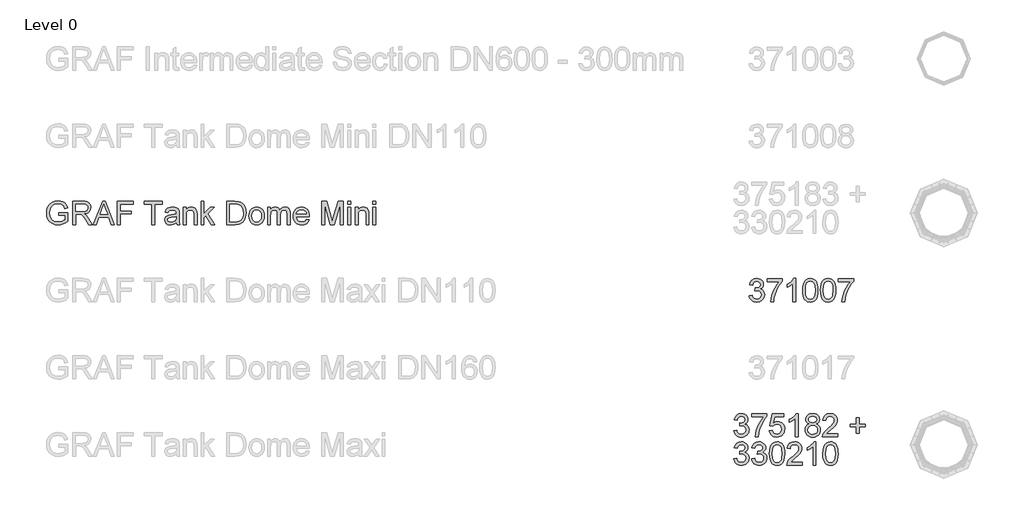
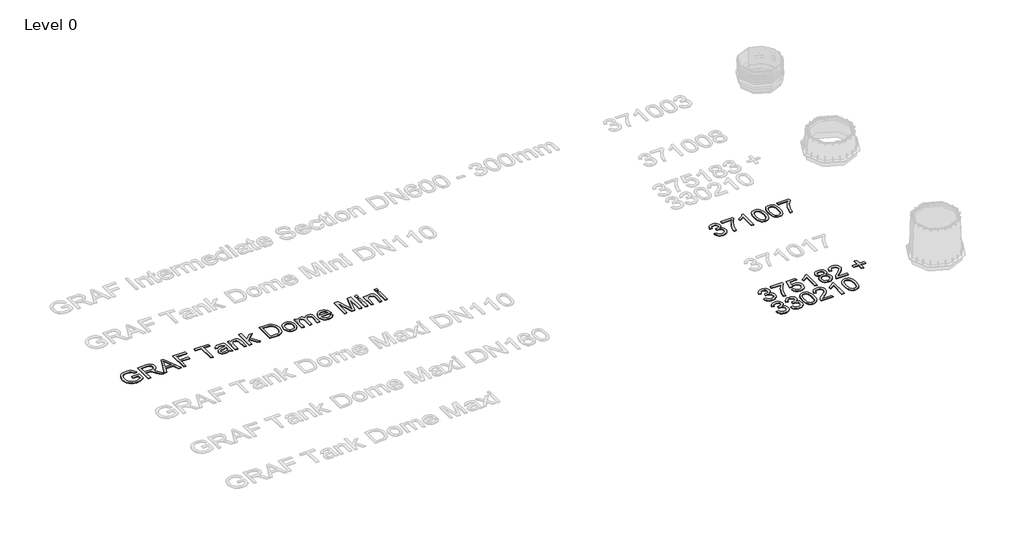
# One storey, part 4 of 20: 3 proxies.
"""IFC4 building model written with IfcOpenShell, lengths in millimetres."""

from ifc_helpers import new_model, si_unit, origin, origin_with_axes, place, context, project, spatial, polyline, outline, extrude, element, save

model = new_model("IFC4")

# Units and contexts
model_context = context("Model", 3, world=origin())
ifc_project = project(units=[si_unit("LENGTHUNIT", "METRE", prefix="MILLI")], contexts=[model_context])

# Site, building, storey
site = spatial("IfcSite", under=ifc_project)
building = spatial("IfcBuilding", under=site)
storey = spatial("IfcBuildingStorey", under=building, Name="Level 0", Elevation=0.0)

# Proxies
placement = place(None, origin())
element("IfcBuildingElementProxy", 1, Name="300mm Arial", ObjectType="300mm Arial", at=placement, inside=storey, context=model_context, shape_type="SweptSolid", body=[
    extrude(outline(polyline([(-15240.9940387, -15082.9794047), (-15240.9940387, -15045.3082884), (-15118.5629107, -15045.3082884), (-15118.5629107, -15157.9537553), (-15148.3153671, -15178.6471176), (-15179.0059225, -15193.4911561), (-15210.5610007, -15202.4306885), (-15242.9070251, -15205.4105327), (-15285.1674693, -15200.674052), (-15323.3628175, -15186.46461), (-15355.0926395, -15163.2788472), (-15377.9565055, -15131.6134045), (-15391.7796715, -15093.6295885), (-15396.3873935, -15051.4887059), (-15391.7980656, -15009.0443207), (-15378.0300819, -14969.5613856), (-15355.6536596, -14936.442809), (-15325.2390156, -14913.0914993), (-15288.1932987, -14899.2407422), (-15245.9236575, -14894.6238232), (-15214.8928112, -14897.3001647), (-15186.9889618, -14905.3291892), (-15163.4904994, -14918.1314827), (-15145.6758138, -14935.1276309), (-15132.4964413, -14957.1361712), (-15122.9039183, -14984.9756412), (-15157.6319786, -14994.7613023), (-15165.3850917, -14974.9048716), (-15174.8120678, -14959.9228773), (-15187.2832674, -14948.6289001), (-15204.169051, -14939.8365204), (-15224.3013932, -14934.1803347), (-15246.5122687, -14932.2949395), (-15272.5123287, -14934.3274875), (-15294.7415982, -14940.4251316), (-15313.1173039, -14949.8245166), (-15327.5566722, -14961.7622873), (-15346.9440533, -14990.7881767), (-15355.7732212, -15019.225455), (-15358.7162772, -15049.9436015), (-15355.175413, -15085.9684459), (-15344.5528204, -15115.6105377), (-15327.1703961, -15138.6583447), (-15303.3500369, -15154.9003348), (-15275.4737787, -15164.529646), (-15245.9236575, -15167.7394164), (-15219.831627, -15165.3205923), (-15194.3833899, -15158.0641199), (-15172.2828791, -15148.0669267), (-15156.234027, -15137.42594), (-15156.234027, -15082.9794047), (-15240.9940387, -15082.9794047)])), origin_with_axes(), (0.0, 0.0, 1.0), 10.0),
    extrude(outline(polyline([(-15057.3473467, -15200.7016432), (-15057.3473467, -14899.3327127), (-14927.4850024, -14899.3327127), (-14892.5821982, -14901.3652607), (-14867.1891434, -14907.4629048), (-14848.6294968, -14918.7200939), (-14834.2269167, -14936.2312768), (-14824.9838815, -14957.9455116), (-14821.9028698, -14981.811856), (-14827.0072325, -15011.4999331), (-14842.3203206, -15036.1112385), (-14853.9200997, -15046.1406214), (-14868.3019865, -15054.1558504), (-14905.4120827, -15064.1438466), (-14884.0013506, -15080.257078), (-14853.467145, -15119.0318402), (-14803.2144645, -15200.7016432), (-14846.9924219, -15200.7016432), (-14886.2086426, -15138.2352804), (-14914.5355562, -15096.8853441), (-14934.4379722, -15077.3508102), (-14952.3538253, -15070.1771113), (-14974.2060158, -15068.8527361), (-15019.6762304, -15068.8527361), (-15019.6762304, -15200.7016432), (-15057.3473467, -15200.7016432)]), holes=[polyline([(-15019.6762304, -15031.1816198), (-14935.3576771, -15031.1816198), (-14911.1418448, -15029.8480476), (-14892.3522719, -15025.8473309), (-14878.2072092, -15018.9127553), (-14867.9249074, -15008.7776063), (-14861.6617165, -14996.5179388), (-14859.5739861, -14983.2098076), (-14863.5563087, -14964.834102), (-14875.5032765, -14950.0268517), (-14896.058683, -14940.2595847), (-14925.8663217, -14937.003829), (-15019.6762304, -14937.003829), (-15019.6762304, -15031.1816198)])]), origin_with_axes(), (0.0, 0.0, 1.0), 10.0),
    extrude(outline(polyline([(-14791.0743586, -15200.7016432), (-14670.7769462, -14899.3327127), (-14638.6976362, -14899.3327127), (-14518.4002238, -15200.7016432), (-14558.2050557, -15200.7016432), (-14592.7123868, -15106.5238524), (-14716.835772, -15106.5238524), (-14751.2695268, -15200.7016432), (-14791.0743586, -15200.7016432)]), holes=[polyline([(-14703.003409, -15068.8527361), (-14606.4711735, -15068.8527361), (-14633.6208647, -14994.7613023), (-14654.7372912, -14937.003829), (-14673.499273, -14988.2865792), (-14703.003409, -15068.8527361)])]), origin_with_axes(), (0.0, 0.0, 1.0), 10.0),
    extrude(outline(polyline([(-14478.1539335, -15200.7016432), (-14478.1539335, -14899.3327127), (-14275.6716834, -14899.3327127), (-14275.6716834, -14937.003829), (-14440.4828172, -14937.003829), (-14440.4828172, -15026.4727303), (-14299.2161311, -15026.4727303), (-14299.2161311, -15064.1438466), (-14440.4828172, -15064.1438466), (-14440.4828172, -15200.7016432), (-14478.1539335, -15200.7016432)])), origin_with_axes(), (0.0, 0.0, 1.0), 10.0),
    extrude(outline(polyline([(-14030.8094274, -15200.7016432), (-14030.8094274, -14937.003829), (-14129.6961077, -14937.003829), (-14129.6961077, -14899.3327127), (-13894.2516308, -14899.3327127), (-13894.2516308, -14937.003829), (-13993.1383111, -14937.003829), (-13993.1383111, -15200.7016432), (-14030.8094274, -15200.7016432)])), origin_with_axes(), (0.0, 0.0, 1.0), 10.0),
    extrude(outline(polyline([(-13715.3138283, -15172.4483059), (-13733.312455, -15187.8809556), (-13751.8445105, -15197.9793164), (-13771.3330592, -15203.5527286), (-13792.2011653, -15205.4105327), (-13823.6826671, -15200.9407665), (-13846.905218, -15187.5314677), (-13861.2250247, -15167.1691993), (-13865.9982936, -15141.8405239), (-13864.1956718, -15126.2239332), (-13858.7878065, -15112.0420823), (-13850.4460822, -15099.9019765), (-13839.8418837, -15090.410621), (-13813.4647447, -15078.049786), (-13780.8703999, -15072.3844033), (-13742.353155, -15066.4247149), (-13715.5345575, -15059.434957), (-13715.3138283, -15051.0472475), (-13717.9073964, -15034.2350404), (-13725.6881006, -15023.2353687), (-13743.088919, -15015.0683884), (-13767.3323425, -15012.3460616), (-13789.7731442, -15014.1578805), (-13805.4449172, -15019.5933369), (-13816.1318891, -15029.6457125), (-13823.6182877, -15045.3082884), (-13861.289404, -15040.5993989), (-13854.7503016, -15019.9980071), (-13844.9922316, -15003.8111994), (-13831.1046863, -14991.4319702), (-13812.1771577, -14982.2533144), (-13789.0281831, -14976.5695376), (-13762.4763001, -14974.6749453), (-13737.009669, -14976.3488084), (-13716.8221445, -14981.3703976), (-13701.601027, -14988.9211756), (-13691.0336167, -14998.1826048), (-13684.0254646, -15009.6329319), (-13679.482122, -15023.7504035), (-13677.642712, -15056.7126303), (-13677.642712, -15103.5807964), (-13675.7297257, -15169.0270034), (-13668.224933, -15200.7016432), (-13705.8960493, -15200.7016432), (-13715.3138283, -15172.4483059)]), holes=[polyline([(-13715.3138283, -15097.1060733), (-13776.0879339, -15108.657568), (-13808.4983377, -15114.7644091), (-13823.1768293, -15124.697223), (-13828.3271773, -15139.1917736), (-13825.522077, -15150.3937803), (-13817.1067764, -15159.5724361), (-13803.2652163, -15165.6976713), (-13784.1813378, -15167.7394164), (-13763.9478281, -15165.4861392), (-13746.0687631, -15158.7263075), (-13731.5742125, -15148.7659025), (-13721.4942459, -15136.9109052), (-13717.0244796, -15124.697223), (-13715.5345575, -15107.7746512), (-13715.3138283, -15097.1060733)])]), origin_with_axes(), (0.0, 0.0, 1.0), 10.0),
    extrude(outline(polyline([(-13625.8449271, -15200.7016432), (-13625.8449271, -14979.3838349), (-13588.1738108, -14979.3838349), (-13588.1738108, -15010.2859225), (-13575.0864088, -14994.70612), (-13559.3686506, -14983.5776896), (-13541.0205361, -14976.9006314), (-13520.0420653, -14974.6749453), (-13501.4732216, -14976.4683701), (-13484.4678764, -14981.8486442), (-13470.2860255, -14990.1443832), (-13460.1876647, -15000.6842024), (-13448.8936874, -15028.3857166), (-13446.9071247, -15064.8060342), (-13446.9071247, -15200.7016432), (-13484.578241, -15200.7016432), (-13484.578241, -15069.8828057), (-13488.9192485, -15036.5526969), (-13494.9249221, -15026.6290801), (-13504.2599277, -15018.9311494), (-13516.2252896, -15013.9923336), (-13530.122032, -15012.3460616), (-13552.1857546, -15016.0432757), (-13570.9937216, -15027.1349178), (-13578.5100106, -15036.1894135), (-13583.8787885, -15048.5640441), (-13588.1738108, -15083.2737103), (-13588.1738108, -15200.7016432), (-13625.8449271, -15200.7016432)])), origin_with_axes(), (0.0, 0.0, 1.0), 10.0),
    extrude(outline(polyline([(-13395.1093397, -15200.7016432), (-13395.1093397, -14899.3327127), (-13357.4382234, -14899.3327127), (-13357.4382234, -15061.274367), (-13272.9725173, -14979.3838349), (-13220.8804268, -14979.3838349), (-13306.3762025, -15062.3044366), (-13216.1715373, -15200.7016432), (-13260.1702239, -15200.7016432), (-13333.3787409, -15088.4976346), (-13357.4382234, -15111.8213531), (-13357.4382234, -15200.7016432), (-13395.1093397, -15200.7016432)])), origin_with_axes(), (0.0, 0.0, 1.0), 10.0),
    extrude(outline(polyline([(-13060.7781825, -15200.7016432), (-13060.7781825, -14899.3327127), (-12956.8147307, -14899.3327127), (-12903.030383, -14903.6737203), (-12879.0076887, -14912.0430357), (-12858.7373908, -14925.2316052), (-12837.8968757, -14948.1874417), (-12823.0528372, -14976.7350845), (-12814.1684871, -15010.3227107), (-12811.207037, -15048.3984972), (-12813.2119939, -15080.7445216), (-12819.2268645, -15109.209391), (-12828.3871262, -15133.4436174), (-12839.8282562, -15153.097713), (-12852.9984316, -15168.6131361), (-12867.3458295, -15180.4313452), (-12883.8177458, -15189.1961338), (-12903.3614768, -15195.5512952), (-12951.8115355, -15200.7016432), (-13060.7781825, -15200.7016432)]), holes=[polyline([(-13023.1070662, -15163.0305269), (-12956.4468487, -15163.0305269), (-12928.8740931, -15161.6693635), (-12907.9600017, -15157.5858733), (-12892.1778641, -15151.0191797), (-12880.0009701, -15142.2084059), (-12866.9135681, -15125.9020365), (-12857.0819218, -15104.794807), (-12850.9290954, -15078.794747), (-12848.8781533, -15047.809886), (-12852.8972641, -15006.7542553), (-12864.9545965, -14976.4407789), (-12882.7692821, -14955.618658), (-12904.0604526, -14943.0370938), (-12925.7287021, -14938.5121452), (-12957.4769183, -14937.003829), (-13023.1070662, -14937.003829), (-13023.1070662, -15163.0305269)])]), origin_with_axes(), (0.0, 0.0, 1.0), 10.0),
    extrude(outline(polyline([(-12773.5359207, -15090.042739), (-12771.4987741, -15061.3801331), (-12765.3873345, -15036.6814556), (-12755.2016018, -15015.9467067), (-12740.9415759, -14999.1758862), (-12726.5849811, -14988.4567246), (-12710.7384641, -14980.8001806), (-12693.4020251, -14976.2062541), (-12674.575664, -14974.6749453), (-12653.7926305, -14976.5396472), (-12635.0007584, -14982.1337528), (-12618.2000475, -14991.4572621), (-12603.3904979, -15004.5101751), (-12591.3032751, -15020.8510335), (-12582.6695445, -15040.0383788), (-12577.4893062, -15062.0722111), (-12575.7625601, -15086.9525303), (-12578.8159806, -15125.0099227), (-12587.9762423, -15153.9806298), (-12602.9766307, -15175.6764705), (-12623.5504313, -15191.9092635), (-12647.9869928, -15202.0352154), (-12674.575664, -15205.4105327), (-12695.6622001, -15203.5527286), (-12714.6288162, -15197.9793164), (-12731.4755123, -15188.690296), (-12746.2022884, -15175.6856675), (-12758.1607526, -15159.18616), (-12766.7025126, -15139.4125028), (-12771.8275687, -15116.3646958), (-12773.5359207, -15090.042739)]), holes=[polyline([(-12735.8648044, -15089.9691626), (-12731.5054027, -15124.0626265), (-12718.4271978, -15148.3520353), (-12698.7455111, -15162.8925711), (-12674.575664, -15167.7394164), (-12650.5161815, -15162.86498), (-12630.871283, -15148.2416707), (-12617.793078, -15123.6303652), (-12613.4336764, -15088.7919402), (-12617.8206692, -15055.6917577), (-12630.9816476, -15031.7334428), (-12650.6541372, -15017.1929069), (-12674.575664, -15012.3460616), (-12698.7455111, -15017.1745128), (-12718.4271978, -15031.6598664), (-12731.5054027, -15055.8940928), (-12735.8648044, -15089.9691626)])]), origin_with_axes(), (0.0, 0.0, 1.0), 10.0),
    extrude(outline(polyline([(-12533.3825542, -15200.7016432), (-12533.3825542, -14979.3838349), (-12495.7114379, -14979.3838349), (-12495.7114379, -15015.8041524), (-12484.3806725, -14999.0747187), (-12469.8125455, -14985.9689226), (-12452.5036976, -14977.4984396), (-12432.9507696, -14974.6749453), (-12411.9998899, -14977.5536219), (-12395.2060768, -14986.1896518), (-12382.6613008, -15000.0128178), (-12374.4575323, -15018.4529028), (-12360.7263368, -14999.3000464), (-12345.0637609, -14985.6194347), (-12327.4698045, -14977.4110677), (-12307.9444676, -14974.6749453), (-12279.626751, -14979.227485), (-12258.6850684, -14992.8851041), (-12245.7448193, -15016.0156845), (-12241.4314029, -15048.9871084), (-12241.4314029, -15200.7016432), (-12279.1025192, -15200.7016432), (-12279.1025192, -15065.1739161), (-12282.5973981, -15033.7200056), (-12287.5086228, -15025.0471875), (-12295.2525388, -15018.2321736), (-12305.2129438, -15013.8175896), (-12316.7736355, -15012.3460616), (-12337.1818892, -15016.1168521), (-12353.8193524, -15027.4292234), (-12364.8834034, -15047.0557279), (-12368.5714204, -15075.7689176), (-12368.5714204, -15200.7016432), (-12406.2425367, -15200.7016432), (-12406.2425367, -15060.9800614), (-12408.4222375, -15039.6796939), (-12414.96134, -15024.4861675), (-12426.4668494, -15015.3810881), (-12443.545771, -15012.3460616), (-12458.0587157, -15014.3694126), (-12471.4312262, -15020.4394655), (-12482.4676861, -15030.4090676), (-12489.9724788, -15044.131066), (-12494.2766981, -15063.1689593), (-12495.7114379, -15089.0862458), (-12495.7114379, -15200.7016432), (-12533.3825542, -15200.7016432)])), origin_with_axes(), (0.0, 0.0, 1.0), 10.0),
    extrude(outline(polyline([(-12029.972832, -15134.7771896), (-11993.0374797, -15139.4860792), (-12006.3456109, -15167.3163521), (-12027.5815991, -15188.1200789), (-12056.2671976, -15201.0879193), (-12091.92416, -15205.4105327), (-12115.2984623, -15203.5458308), (-12136.1251817, -15197.9517253), (-12154.4043184, -15188.6282159), (-12170.1358722, -15175.5753029), (-12182.7864143, -15159.1562696), (-12191.8225158, -15139.7343995), (-12197.2441767, -15117.3096927), (-12199.051397, -15091.882149), (-12197.2257826, -15065.5923819), (-12191.7489394, -15042.4204147), (-12182.6208674, -15022.3662475), (-12169.8415666, -15005.4298801), (-12154.1513995, -14991.9745962), (-12136.2907286, -14982.363679), (-12116.259554, -14976.5971288), (-12094.0578756, -14974.6749453), (-12072.5712678, -14976.5925302), (-12053.1402007, -14982.3452849), (-12035.7646742, -14991.9332094), (-12020.4446884, -15005.3563037), (-12007.9389998, -15022.2558829), (-11999.0063651, -15042.2732619), (-11993.6467843, -15065.4084409), (-11991.8602573, -15091.6614198), (-11992.0809865, -15101.8149629), (-12161.3802807, -15101.8149629), (-12154.8595723, -15130.0131178), (-12139.7120312, -15150.7432682), (-12117.8506436, -15163.4903794), (-12091.188396, -15167.7394164), (-12071.1388273, -15165.7712477), (-12054.2530437, -15159.8667417), (-12040.5310453, -15149.6580163), (-12029.972832, -15134.7771896)]), holes=[polyline([(-12161.3802807, -15064.1438466), (-12029.5313736, -15064.1438466), (-12034.6265393, -15044.2414306), (-12044.6145354, -15030.0043974), (-12066.5770906, -15016.7606456), (-12094.2050284, -15012.3460616), (-12119.5980831, -15015.8685317), (-12140.594948, -15026.4359421), (-12155.1906661, -15042.9078584), (-12161.3802807, -15064.1438466)])]), origin_with_axes(), (0.0, 0.0, 1.0), 10.0),
    extrude(outline(polyline([(-11831.758013, -15200.7016432), (-11831.758013, -14899.3327127), (-11766.9372055, -14899.3327127), (-11705.2801831, -15111.7477767), (-11692.8457717, -15156.1143454), (-11679.3812906, -15108.0689568), (-11618.7543378, -14899.3327127), (-11553.9335303, -14899.3327127), (-11553.9335303, -15200.7016432), (-11591.6046466, -15200.7016432), (-11591.6046466, -14937.003829), (-11667.3147612, -15200.7016432), (-11718.3767821, -15200.7016432), (-11794.0868967, -14937.003829), (-11794.0868967, -15200.7016432), (-11831.758013, -15200.7016432)])), origin_with_axes(), (0.0, 0.0, 1.0), 10.0),
    extrude(outline(polyline([(-11492.7179663, -14937.003829), (-11492.7179663, -14899.3327127), (-11455.04685, -14899.3327127), (-11455.04685, -14937.003829), (-11492.7179663, -14937.003829)])), origin_with_axes(), (0.0, 0.0, 1.0), 10.0),
    extrude(outline(polyline([(-11492.7179663, -15200.7016432), (-11492.7179663, -14979.3838349), (-11455.04685, -14979.3838349), (-11455.04685, -15200.7016432), (-11492.7179663, -15200.7016432)])), origin_with_axes(), (0.0, 0.0, 1.0), 10.0),
    extrude(outline(polyline([(-11398.5401755, -15200.7016432), (-11398.5401755, -14979.3838349), (-11360.8690592, -14979.3838349), (-11360.8690592, -15010.2859225), (-11347.7816572, -14994.70612), (-11332.063899, -14983.5776896), (-11313.7157845, -14976.9006314), (-11292.7373137, -14974.6749453), (-11274.16847, -14976.4683701), (-11257.1631248, -14981.8486442), (-11242.9812739, -14990.1443832), (-11232.8829131, -15000.6842024), (-11221.5889358, -15028.3857166), (-11219.6023731, -15064.8060342), (-11219.6023731, -15200.7016432), (-11257.2734894, -15200.7016432), (-11257.2734894, -15069.8828057), (-11261.6144969, -15036.5526969), (-11267.6201705, -15026.6290801), (-11276.9551761, -15018.9311494), (-11288.920538, -15013.9923336), (-11302.8172804, -15012.3460616), (-11324.881003, -15016.0432757), (-11343.68897, -15027.1349178), (-11351.205259, -15036.1894135), (-11356.5740369, -15048.5640441), (-11360.8690592, -15083.2737103), (-11360.8690592, -15200.7016432), (-11398.5401755, -15200.7016432)])), origin_with_axes(), (0.0, 0.0, 1.0), 10.0),
    extrude(outline(polyline([(-11167.8045881, -14937.003829), (-11167.8045881, -14899.3327127), (-11130.1334718, -14899.3327127), (-11130.1334718, -14937.003829), (-11167.8045881, -14937.003829)])), origin_with_axes(), (0.0, 0.0, 1.0), 10.0),
    extrude(outline(polyline([(-11167.8045881, -15200.7016432), (-11167.8045881, -14979.3838349), (-11130.1334718, -14979.3838349), (-11130.1334718, -15200.7016432), (-11167.8045881, -15200.7016432)])), origin_with_axes(), (0.0, 0.0, 1.0), 10.0),
])
element("IfcBuildingElementProxy", 2, Name="300mm Arial", ObjectType="300mm Arial", at=placement, inside=storey, context=model_context, shape_type="SweptSolid", body=[
    extrude(outline(polyline([(-6292.0538732, -16120.650521), (-6254.3827568, -16115.9416315), (-6245.9490621, -16139.6148379), (-6233.5974241, -16155.5993106), (-6216.7208376, -16164.7043899), (-6194.7122972, -16167.7394164), (-6168.8869812, -16163.5639558), (-6148.947777, -16151.0375738), (-6136.2006659, -16132.3491685), (-6131.9516289, -16109.6876376), (-6136.1638777, -16088.1757379), (-6148.8006242, -16070.7289343), (-6167.930488, -16059.1682426), (-6191.6220885, -16055.3146787), (-6218.0360157, -16059.434957), (-6213.842161, -16021.7638407), (-6207.8088963, -16022.2052991), (-6185.2393359, -16019.5013664), (-6165.0610084, -16011.3895685), (-6150.8239752, -15997.66757), (-6146.0782975, -15978.1330361), (-6149.5179941, -15961.8634549), (-6159.8370841, -15948.6656883), (-6175.5824335, -15939.9192938), (-6195.3009084, -15937.003829), (-6215.0561716, -15939.946885), (-6231.2061912, -15948.7760529), (-6242.9968091, -15963.4913327), (-6249.6738673, -15984.0927244), (-6287.3449836, -15979.3838349), (-6276.2533415, -15945.5570854), (-6256.5164724, -15920.3019864), (-6229.513934, -15904.5750312), (-6196.6252836, -15899.3327127), (-6172.9428802, -15901.9170837), (-6151.1918572, -15909.6701968), (-6132.8529397, -15921.9022731), (-6119.4068528, -15937.923534), (-6111.1570991, -15956.3820131), (-6108.4071812, -15975.9257441), (-6111.0191433, -15994.1359029), (-6118.8550298, -16010.6538045), (-6131.8044761, -16024.7252908), (-6149.7571174, -16035.5962037), (-6126.1758815, -16045.1243474), (-6108.7014868, -16061.3479434), (-6097.8857561, -16083.3840749), (-6094.2805125, -16110.3498252), (-6096.0831343, -16129.4612948), (-6101.4909997, -16147.0644483), (-6110.5041085, -16163.1592856), (-6123.122461, -16177.7458067), (-6138.4953298, -16189.8491243), (-6155.771988, -16198.4943512), (-6174.9524356, -16203.6814873), (-6196.0366724, -16205.4105327), (-6215.0929598, -16203.9344062), (-6232.4569899, -16199.5060267), (-6248.1287629, -16192.1253942), (-6262.1082787, -16181.7925086), (-6273.8299188, -16169.1143754), (-6282.7280646, -16154.6979997), (-6288.802716, -16138.5433816), (-6292.0538732, -16120.650521)])), origin_with_axes(), (0.0, 0.0, 1.0), 10.0),
    extrude(outline(polyline([(-6061.3182858, -15941.7127186), (-6061.3182858, -15904.0416023), (-5863.5449252, -15904.0416023), (-5863.5449252, -15934.5022315), (-5891.7338831, -15970.1775879), (-5919.6469294, -16015.546635), (-5944.267432, -16066.4707002), (-5962.5787583, -16118.811111), (-5971.555079, -16157.9721494), (-5976.5582741, -16200.7016432), (-6014.2293904, -16200.7016432), (-6010.1550973, -16161.8716986), (-5999.2565932, -16115.7209023), (-5981.8281837, -16066.801794), (-5958.1641743, -16019.6669133), (-5930.5362365, -15977.0569813), (-5901.2160415, -15941.7127186), (-6061.3182858, -15941.7127186)])), origin_with_axes(), (0.0, 0.0, 1.0), 10.0),
    extrude(outline(polyline([(-5689.3160123, -16200.7016432), (-5726.9871286, -16200.7016432), (-5726.9871286, -15965.8457775), (-5762.6716821, -15991.2664233), (-5802.3293612, -16010.2859225), (-5802.3293612, -15974.6749453), (-5772.7424517, -15958.580108), (-5747.1102737, -15939.4318502), (-5726.9043551, -15919.0695818), (-5713.5962239, -15899.3327127), (-5689.3160123, -15899.3327127), (-5689.3160123, -16200.7016432)])), origin_with_axes(), (0.0, 0.0, 1.0), 10.0),
    extrude(outline(polyline([(-5599.847111, -16052.4451991), (-5597.078799, -16004.2066725), (-5588.773863, -15965.7354129), (-5575.0150764, -15936.442809), (-5555.8852126, -15915.7402497), (-5531.246316, -15903.434597), (-5500.9604307, -15899.3327127), (-5477.7470768, -15901.7607339), (-5456.9617441, -15909.0447974), (-5439.5793198, -15920.8997947), (-5426.5746913, -15937.0406172), (-5416.752242, -15957.3293093), (-5408.9163555, -15981.627915), (-5403.7844017, -16012.4840174), (-5402.0737504, -16052.4451991), (-5404.8144713, -16100.4078142), (-5413.0366339, -16138.7871034), (-5426.7126471, -16168.1072984), (-5445.8149197, -16188.8926311), (-5470.5089986, -16201.2810573), (-5500.9604307, -16205.4105327), (-5521.7089753, -16203.617108), (-5540.103075, -16198.2368338), (-5556.14273, -16189.2697102), (-5569.8279402, -16176.7157371), (-5582.9613275, -16154.0220165), (-5592.3423183, -16125.7456867), (-5597.9709129, -16091.8867475), (-5599.847111, -16052.4451991)]), holes=[polyline([(-5562.1759947, -16052.3716227), (-5557.7614108, -16111.6282151), (-5552.2431809, -16131.8962138), (-5544.517659, -16145.9240141), (-5524.799184, -16162.2855658), (-5500.9604307, -16167.7394164), (-5477.1216774, -16162.2671717), (-5457.4032025, -16145.8504377), (-5449.6776806, -16131.7996447), (-5444.1594507, -16111.5362446), (-5439.7448667, -16052.3716227), (-5444.0122979, -15994.4486026), (-5449.3465868, -15974.2472825), (-5456.8145913, -15959.8860891), (-5476.496278, -15942.7243941), (-5501.4018891, -15937.003829), (-5524.983125, -15942.0438124), (-5543.9290478, -15957.1637624), (-5551.9120871, -15972.7987472), (-5557.614258, -15993.8783855), (-5562.1759947, -16052.3716227)])]), origin_with_axes(), (0.0, 0.0, 1.0), 10.0),
    extrude(outline(polyline([(-5369.1115237, -16052.4451991), (-5366.3432116, -16004.2066725), (-5358.0382756, -15965.7354129), (-5344.279489, -15936.442809), (-5325.1496252, -15915.7402497), (-5300.5107286, -15903.434597), (-5270.2248434, -15899.3327127), (-5247.0114895, -15901.7607339), (-5226.2261567, -15909.0447974), (-5208.8437325, -15920.8997947), (-5195.8391039, -15937.0406172), (-5186.0166547, -15957.3293093), (-5178.1807682, -15981.627915), (-5173.0488143, -16012.4840174), (-5171.338163, -16052.4451991), (-5174.0788839, -16100.4078142), (-5182.3010465, -16138.7871034), (-5195.9770597, -16168.1072984), (-5215.0793323, -16188.8926311), (-5239.7734112, -16201.2810573), (-5270.2248434, -16205.4105327), (-5290.9733879, -16203.617108), (-5309.3674876, -16198.2368338), (-5325.4071426, -16189.2697102), (-5339.0923528, -16176.7157371), (-5352.2257401, -16154.0220165), (-5361.606731, -16125.7456867), (-5367.2353255, -16091.8867475), (-5369.1115237, -16052.4451991)]), holes=[polyline([(-5331.4404073, -16052.3716227), (-5327.0258234, -16111.6282151), (-5321.5075935, -16131.8962138), (-5313.7820716, -16145.9240141), (-5294.0635966, -16162.2855658), (-5270.2248434, -16167.7394164), (-5246.3860901, -16162.2671717), (-5226.6676151, -16145.8504377), (-5218.9420932, -16131.7996447), (-5213.4238633, -16111.5362446), (-5209.0092794, -16052.3716227), (-5213.2767105, -15994.4486026), (-5218.6109994, -15974.2472825), (-5226.0790039, -15959.8860891), (-5245.7606907, -15942.7243941), (-5270.6663017, -15937.003829), (-5294.2475376, -15942.0438124), (-5313.1934604, -15957.1637624), (-5321.1764997, -15972.7987472), (-5326.8786706, -15993.8783855), (-5331.4404073, -16052.3716227)])]), origin_with_axes(), (0.0, 0.0, 1.0), 10.0),
    extrude(outline(polyline([(-5138.3759363, -15941.7127186), (-5138.3759363, -15904.0416023), (-4940.6025757, -15904.0416023), (-4940.6025757, -15934.5022315), (-4968.7915336, -15970.1775879), (-4996.7045799, -16015.546635), (-5021.3250825, -16066.4707002), (-5039.6364088, -16118.811111), (-5048.6127295, -16157.9721494), (-5053.6159246, -16200.7016432), (-5091.2870409, -16200.7016432), (-5087.2127478, -16161.8716986), (-5076.3142437, -16115.7209023), (-5058.8858342, -16066.801794), (-5035.2218248, -16019.6669133), (-5007.593887, -15977.0569813), (-4978.273692, -15941.7127186), (-5138.3759363, -15941.7127186)])), origin_with_axes(), (0.0, 0.0, 1.0), 10.0),
])
element("IfcBuildingElementProxy", 3, Name="300mm Arial", ObjectType="300mm Arial", at=placement, inside=storey, context=model_context, shape_type="SweptSolid", body=[
    extrude(outline(polyline([(-6492.0538732, -17870.650521), (-6454.3827568, -17865.9416315), (-6445.9490621, -17889.6148379), (-6433.5974241, -17905.5993106), (-6416.7208376, -17914.7043899), (-6394.7122972, -17917.7394164), (-6368.8869812, -17913.5639558), (-6348.947777, -17901.0375738), (-6336.2006659, -17882.3491685), (-6331.9516289, -17859.6876376), (-6336.1638777, -17838.1757379), (-6348.8006242, -17820.7289343), (-6367.930488, -17809.1682426), (-6391.6220885, -17805.3146787), (-6418.0360157, -17809.434957), (-6413.842161, -17771.7638407), (-6407.8088963, -17772.2052991), (-6385.2393359, -17769.5013664), (-6365.0610084, -17761.3895685), (-6350.8239752, -17747.66757), (-6346.0782975, -17728.1330361), (-6349.5179941, -17711.8634549), (-6359.8370841, -17698.6656883), (-6375.5824335, -17689.9192938), (-6395.3009084, -17687.003829), (-6415.0561716, -17689.946885), (-6431.2061912, -17698.7760529), (-6442.9968091, -17713.4913327), (-6449.6738673, -17734.0927244), (-6487.3449836, -17729.3838349), (-6476.2533415, -17695.5570854), (-6456.5164724, -17670.3019864), (-6429.513934, -17654.5750312), (-6396.6252836, -17649.3327127), (-6372.9428802, -17651.9170837), (-6351.1918572, -17659.6701968), (-6332.8529397, -17671.9022731), (-6319.4068528, -17687.923534), (-6311.1570991, -17706.3820131), (-6308.4071812, -17725.9257441), (-6311.0191433, -17744.1359029), (-6318.8550298, -17760.6538045), (-6331.8044761, -17774.7252908), (-6349.7571174, -17785.5962037), (-6326.1758815, -17795.1243474), (-6308.7014868, -17811.3479434), (-6297.8857561, -17833.3840749), (-6294.2805125, -17860.3498252), (-6296.0831343, -17879.4612948), (-6301.4909997, -17897.0644483), (-6310.5041085, -17913.1592856), (-6323.122461, -17927.7458067), (-6338.4953298, -17939.8491243), (-6355.771988, -17948.4943512), (-6374.9524356, -17953.6814873), (-6396.0366724, -17955.4105327), (-6415.0929598, -17953.9344062), (-6432.4569899, -17949.5060267), (-6448.1287629, -17942.1253942), (-6462.1082787, -17931.7925086), (-6473.8299188, -17919.1143754), (-6482.7280646, -17904.6979997), (-6488.802716, -17888.5433816), (-6492.0538732, -17870.650521)])), origin_with_axes(), (0.0, 0.0, 1.0), 10.0),
    extrude(outline(polyline([(-6261.3182858, -17691.7127186), (-6261.3182858, -17654.0416023), (-6063.5449252, -17654.0416023), (-6063.5449252, -17684.5022315), (-6091.7338831, -17720.1775879), (-6119.6469294, -17765.546635), (-6144.267432, -17816.4707002), (-6162.5787583, -17868.811111), (-6171.555079, -17907.9721494), (-6176.5582741, -17950.7016432), (-6214.2293904, -17950.7016432), (-6210.1550973, -17911.8716986), (-6199.2565932, -17865.7209023), (-6181.8281837, -17816.801794), (-6158.1641743, -17769.6669133), (-6130.5362365, -17727.0569813), (-6101.2160415, -17691.7127186), (-6261.3182858, -17691.7127186)])), origin_with_axes(), (0.0, 0.0, 1.0), 10.0),
    extrude(outline(polyline([(-6030.5826984, -17870.650521), (-5992.9115821, -17865.9416315), (-5985.9954006, -17888.5571771), (-5973.9288711, -17904.753182), (-5956.7671761, -17914.4928578), (-5934.5654977, -17917.7394164), (-5907.5629592, -17913.2236649), (-5887.3294495, -17899.6764104), (-5874.6927029, -17878.6611515), (-5870.4804541, -17851.7413865), (-5874.4259885, -17826.394317), (-5886.2625917, -17807.0069359), (-5906.0822342, -17794.7012831), (-5933.9768865, -17790.5993989), (-5952.2514246, -17792.2364738), (-5967.0494778, -17797.1476984), (-5988.2026926, -17814.1438466), (-6025.8738089, -17809.434957), (-5992.9115821, -17654.0416023), (-5846.9360064, -17654.0416023), (-5846.9360064, -17691.7127186), (-5962.4509529, -17691.7127186), (-5978.5641843, -17774.7068967), (-5951.6536163, -17758.3729361), (-5923.4554614, -17752.9282826), (-5905.1096462, -17754.6159412), (-5888.2583515, -17759.6789172), (-5872.9015775, -17768.1172104), (-5859.0393241, -17779.930821), (-5847.5637051, -17794.3977805), (-5839.3668344, -17810.7961204), (-5834.4487119, -17829.1258408), (-5832.8093378, -17849.3869417), (-5838.7138438, -17887.058058), (-5846.0944763, -17903.8518711), (-5856.4273619, -17919.2845208), (-5872.0807408, -17935.089651), (-5890.3460818, -17946.3790297), (-5911.2233851, -17953.152657), (-5934.7126505, -17955.4105327), (-5971.7123821, -17949.6071942), (-5987.3910529, -17942.3530211), (-6001.188927, -17932.1971788), (-6012.6691445, -17919.645505), (-6021.3948456, -17905.2038374), (-6030.5826984, -17870.650521)])), origin_with_axes(), (0.0, 0.0, 1.0), 10.0),
    extrude(outline(polyline([(-5658.5804249, -17950.7016432), (-5696.2515412, -17950.7016432), (-5696.2515412, -17715.8457775), (-5731.9360947, -17741.2664233), (-5771.5937738, -17760.2859225), (-5771.5937738, -17724.6749453), (-5742.0068643, -17708.580108), (-5716.3746863, -17689.4318502), (-5696.1687677, -17669.0695818), (-5682.8606366, -17649.3327127), (-5658.5804249, -17649.3327127), (-5658.5804249, -17950.7016432)])), origin_with_axes(), (0.0, 0.0, 1.0), 10.0),
    extrude(outline(polyline([(-5514.22353, -17784.7132869), (-5534.3926604, -17774.7804731), (-5548.5469201, -17761.3159921), (-5556.9070385, -17744.5957554), (-5559.6937446, -17724.8956745), (-5558.1762313, -17709.5320027), (-5553.6236917, -17695.4467208), (-5546.0361255, -17682.6398289), (-5535.4135329, -17671.1113268), (-5522.2663501, -17661.5831832), (-5507.1050134, -17654.7773663), (-5470.7398781, -17649.3327127), (-5434.1540137, -17654.906125), (-5418.8271301, -17661.8728902), (-5405.4776122, -17671.6263616), (-5394.6618815, -17683.3801914), (-5386.9363596, -17696.3480317), (-5382.3010465, -17710.5298826), (-5380.7559421, -17725.9257441), (-5383.50586, -17744.9912285), (-5391.7556138, -17761.4263567), (-5405.5971738, -17774.8080642), (-5425.1225107, -17784.7132869), (-5401.936748, -17796.6602547), (-5385.0601615, -17814.2542112), (-5374.7686627, -17836.6490276), (-5371.338163, -17862.9985755), (-5373.0396173, -17881.7881484), (-5378.14398, -17899.0142229), (-5386.6512511, -17914.6767988), (-5398.5614307, -17928.7758763), (-5413.2491193, -17940.4285385), (-5430.0889177, -17948.7518686), (-5449.0808257, -17953.7458667), (-5470.2248434, -17955.4105327), (-5491.368861, -17953.7389689), (-5510.360769, -17948.7242774), (-5527.2005674, -17940.3664584), (-5541.888256, -17928.6655117), (-5553.7984356, -17914.4675659), (-5562.3057067, -17898.6187497), (-5567.4100694, -17881.119063), (-5569.1115237, -17861.9685059), (-5565.5430683, -17834.5980855), (-5554.8377022, -17812.0837074), (-5537.5472485, -17795.1979238), (-5514.22353, -17784.7132869)]), holes=[polyline([(-5522.0226283, -17725.9993205), (-5518.6840992, -17742.4436457), (-5508.6685118, -17755.5770329), (-5492.2701719, -17764.1854716), (-5469.783385, -17767.0549512), (-5447.8208298, -17764.2038657), (-5431.6708103, -17755.6506093), (-5421.7379964, -17742.9586805), (-5418.4270584, -17727.6915777), (-5421.848361, -17711.8450608), (-5432.1122687, -17698.7392647), (-5448.4830174, -17689.9376879), (-5470.2248434, -17687.003829), (-5492.104625, -17689.8733086), (-5508.4477827, -17698.4817473), (-5518.6289169, -17711.1000997), (-5522.0226283, -17725.9993205)]), polyline([(-5531.4404073, -17860.6441308), (-5525.1496252, -17889.0078326), (-5516.440019, -17901.1755296), (-5502.8927645, -17910.2346237), (-5486.6691685, -17915.8632182), (-5469.9305378, -17917.7394164), (-5444.2891627, -17913.793882), (-5425.0489343, -17901.9572788), (-5413.0191931, -17884.0322286), (-5409.0092794, -17861.8213531), (-5413.1479518, -17839.2333986), (-5425.5639691, -17820.9128753), (-5445.2456559, -17808.7727694), (-5471.1813365, -17804.7260675), (-5496.4640267, -17808.7175871), (-5515.511117, -17820.6921461), (-5527.4580848, -17838.6631815), (-5531.4404073, -17860.6441308)])]), origin_with_axes(), (0.0, 0.0, 1.0), 10.0),
    extrude(outline(polyline([(-5145.3114652, -17913.0305269), (-5145.3114652, -17950.7016432), (-5343.0848258, -17950.7016432), (-5339.0381239, -17924.7291743), (-5329.7491035, -17904.4312852), (-5316.1558638, -17884.7404014), (-5296.4925711, -17864.1298127), (-5268.993392, -17841.0728086), (-5228.3424315, -17804.9651908), (-5203.9518552, -17778.3121402), (-5191.7565671, -17756.6806789), (-5187.6914711, -17735.6378288), (-5191.5266409, -17716.7746795), (-5203.0321503, -17701.0937094), (-5220.7180772, -17690.5262991), (-5243.0944995, -17687.003829), (-5266.592962, -17690.4435257), (-5284.849106, -17700.7626156), (-5296.6305269, -17717.1517585), (-5300.70482, -17738.801614), (-5338.3759363, -17734.0927244), (-5329.2432658, -17697.6540128), (-5320.6969072, -17683.1180755), (-5309.4971997, -17671.0377504), (-5295.9016607, -17661.5417964), (-5280.1678076, -17654.7589722), (-5242.2851591, -17649.3327127), (-5222.0953354, -17650.8410289), (-5204.1265992, -17655.3659774), (-5188.3789505, -17662.9075583), (-5174.8523894, -17673.4657716), (-5163.9883743, -17686.258868), (-5156.2283634, -17700.5050983), (-5151.5723569, -17716.2044624), (-5150.0203548, -17733.3569604), (-5151.6942178, -17751.3739811), (-5156.7158071, -17769.0783022), (-5165.6277484, -17787.0861258), (-5178.9726678, -17806.0136545), (-5200.2454441, -17828.610806), (-5232.9409565, -17857.6274984), (-5276.2774555, -17893.8638749), (-5293.2736037, -17913.0305269), (-5145.3114652, -17913.0305269)])), origin_with_axes(), (0.0, 0.0, 1.0), 10.0),
    extrude(outline(polyline([(-4905.1580988, -17903.6127478), (-4905.1580988, -17823.5616256), (-4985.2092209, -17823.5616256), (-4985.2092209, -17785.8905093), (-4905.1580988, -17785.8905093), (-4905.1580988, -17705.8393872), (-4867.4869825, -17705.8393872), (-4867.4869825, -17785.8905093), (-4787.4358603, -17785.8905093), (-4787.4358603, -17823.5616256), (-4867.4869825, -17823.5616256), (-4867.4869825, -17903.6127478), (-4905.1580988, -17903.6127478)])), origin_with_axes(), (0.0, 0.0, 1.0), 10.0),
    extrude(outline(polyline([(-6492.0538732, -18236.5749746), (-6454.3827568, -18231.866085), (-6445.9490621, -18255.5392914), (-6433.5974241, -18271.5237641), (-6416.7208376, -18280.6288435), (-6394.7122972, -18283.6638699), (-6368.8869812, -18279.4884093), (-6348.947777, -18266.9620274), (-6336.2006659, -18248.273622), (-6331.9516289, -18225.6120911), (-6336.1638777, -18204.1001914), (-6348.8006242, -18186.6533878), (-6367.930488, -18175.0926961), (-6391.6220885, -18171.2391322), (-6418.0360157, -18175.3594106), (-6413.842161, -18137.6882943), (-6407.8088963, -18138.1297526), (-6385.2393359, -18135.42582), (-6365.0610084, -18127.314022), (-6350.8239752, -18113.5920236), (-6346.0782975, -18094.0574896), (-6349.5179941, -18077.7879084), (-6359.8370841, -18064.5901418), (-6375.5824335, -18055.8437474), (-6395.3009084, -18052.9282826), (-6415.0561716, -18055.8713385), (-6431.2061912, -18064.7005064), (-6442.9968091, -18079.4157862), (-6449.6738673, -18100.0171779), (-6487.3449836, -18095.3082884), (-6476.2533415, -18061.481539), (-6456.5164724, -18036.22644), (-6429.513934, -18020.4994847), (-6396.6252836, -18015.2571663), (-6372.9428802, -18017.8415373), (-6351.1918572, -18025.5946503), (-6332.8529397, -18037.8267267), (-6319.4068528, -18053.8479876), (-6311.1570991, -18072.3064667), (-6308.4071812, -18091.8501977), (-6311.0191433, -18110.0603564), (-6318.8550298, -18126.578258), (-6331.8044761, -18140.6497443), (-6349.7571174, -18151.5206573), (-6326.1758815, -18161.0488009), (-6308.7014868, -18177.2723969), (-6297.8857561, -18199.3085284), (-6294.2805125, -18226.2742787), (-6296.0831343, -18245.3857483), (-6301.4909997, -18262.9889018), (-6310.5041085, -18279.0837391), (-6323.122461, -18293.6702602), (-6338.4953298, -18305.7735779), (-6355.771988, -18314.4188047), (-6374.9524356, -18319.6059409), (-6396.0366724, -18321.3349862), (-6415.0929598, -18319.8588597), (-6432.4569899, -18315.4304802), (-6448.1287629, -18308.0498477), (-6462.1082787, -18297.7169622), (-6473.8299188, -18285.0388289), (-6482.7280646, -18270.6224532), (-6488.802716, -18254.4678351), (-6492.0538732, -18236.5749746)])), origin_with_axes(), (0.0, 0.0, 1.0), 10.0),
    extrude(outline(polyline([(-6261.3182858, -18236.5749746), (-6223.6471695, -18231.866085), (-6215.2134747, -18255.5392914), (-6202.8618367, -18271.5237641), (-6185.9852502, -18280.6288435), (-6163.9767099, -18283.6638699), (-6138.1513938, -18279.4884093), (-6118.2121897, -18266.9620274), (-6105.4650785, -18248.273622), (-6101.2160415, -18225.6120911), (-6105.4282903, -18204.1001914), (-6118.0650369, -18186.6533878), (-6137.1949006, -18175.0926961), (-6160.8865011, -18171.2391322), (-6187.3004284, -18175.3594106), (-6183.1065736, -18137.6882943), (-6177.0733089, -18138.1297526), (-6154.5037485, -18135.42582), (-6134.325421, -18127.314022), (-6120.0883878, -18113.5920236), (-6115.3427101, -18094.0574896), (-6118.7824067, -18077.7879084), (-6129.1014967, -18064.5901418), (-6144.8468461, -18055.8437474), (-6164.565321, -18052.9282826), (-6184.3205842, -18055.8713385), (-6200.4706038, -18064.7005064), (-6212.2612217, -18079.4157862), (-6218.9382799, -18100.0171779), (-6256.6093962, -18095.3082884), (-6245.5177541, -18061.481539), (-6225.780885, -18036.22644), (-6198.7783466, -18020.4994847), (-6165.8896962, -18015.2571663), (-6142.2072928, -18017.8415373), (-6120.4562698, -18025.5946503), (-6102.1173524, -18037.8267267), (-6088.6712654, -18053.8479876), (-6080.4215117, -18072.3064667), (-6077.6715938, -18091.8501977), (-6080.283556, -18110.0603564), (-6088.1194425, -18126.578258), (-6101.0688887, -18140.6497443), (-6119.02153, -18151.5206573), (-6095.4402942, -18161.0488009), (-6077.9658994, -18177.2723969), (-6067.1501687, -18199.3085284), (-6063.5449252, -18226.2742787), (-6065.3475469, -18245.3857483), (-6070.7554123, -18262.9889018), (-6079.7685212, -18279.0837391), (-6092.3868736, -18293.6702602), (-6107.7597425, -18305.7735779), (-6125.0364007, -18314.4188047), (-6144.2168482, -18319.6059409), (-6165.301085, -18321.3349862), (-6184.3573724, -18319.8588597), (-6201.7214026, -18315.4304802), (-6217.3931756, -18308.0498477), (-6231.3726914, -18297.7169622), (-6243.0943314, -18285.0388289), (-6251.9924772, -18270.6224532), (-6258.0671286, -18254.4678351), (-6261.3182858, -18236.5749746)])), origin_with_axes(), (0.0, 0.0, 1.0), 10.0),
    extrude(outline(polyline([(-6030.5826984, -18168.3696527), (-6027.8143864, -18120.131126), (-6019.5094504, -18081.6598664), (-6005.7506637, -18052.3672625), (-5986.6208, -18031.6647032), (-5961.9819034, -18019.3590505), (-5931.6960181, -18015.2571663), (-5908.4826642, -18017.6851874), (-5887.6973315, -18024.9692509), (-5870.3149072, -18036.8242482), (-5857.3102787, -18052.9650708), (-5847.4878294, -18073.2537628), (-5839.6519429, -18097.5523686), (-5834.5199891, -18128.4084709), (-5832.8093378, -18168.3696527), (-5835.5500587, -18216.3322678), (-5843.7722213, -18254.7115569), (-5857.4482344, -18284.0317519), (-5876.550507, -18304.8170847), (-5901.244586, -18317.2055109), (-5931.6960181, -18321.3349862), (-5952.4445626, -18319.5415615), (-5970.8386624, -18314.1612873), (-5986.8783174, -18305.1941637), (-6000.5635276, -18292.6401906), (-6013.6969148, -18269.94647), (-6023.0779057, -18241.6701402), (-6028.7065002, -18207.8112011), (-6030.5826984, -18168.3696527)]), holes=[polyline([(-5992.9115821, -18168.2960763), (-5988.4969982, -18227.5526686), (-5982.9787682, -18247.8206673), (-5975.2532463, -18261.8484676), (-5955.5347714, -18278.2100194), (-5931.6960181, -18283.6638699), (-5907.8572648, -18278.1916253), (-5888.1387899, -18261.7748912), (-5880.413268, -18247.7240983), (-5874.895038, -18227.4606981), (-5870.4804541, -18168.2960763), (-5874.7478852, -18110.3730561), (-5880.0821742, -18090.1717361), (-5887.5501787, -18075.8105427), (-5907.2318654, -18058.6488476), (-5932.1374765, -18052.9282826), (-5955.7187124, -18057.9682659), (-5974.6646351, -18073.0882159), (-5982.6476744, -18088.7232007), (-5988.3498454, -18109.802839), (-5992.9115821, -18168.2960763)])]), origin_with_axes(), (0.0, 0.0, 1.0), 10.0),
    extrude(outline(polyline([(-5606.78264, -18278.9549804), (-5606.78264, -18316.6260967), (-5804.5560006, -18316.6260967), (-5800.5092986, -18290.6536278), (-5791.2202782, -18270.3557388), (-5777.6270385, -18250.664855), (-5757.9637459, -18230.0542662), (-5730.4645667, -18206.9972621), (-5689.8136063, -18170.8896443), (-5665.42303, -18144.2365938), (-5653.2277419, -18122.6051325), (-5649.1626458, -18101.5622823), (-5652.9978156, -18082.699133), (-5664.503325, -18067.018163), (-5682.1892519, -18056.4507527), (-5704.5656743, -18052.9282826), (-5728.0641367, -18056.3679792), (-5746.3202807, -18066.6870692), (-5758.1017016, -18083.0762121), (-5762.1759947, -18104.7260675), (-5799.847111, -18100.0171779), (-5790.7144405, -18063.5784663), (-5782.1680819, -18049.042529), (-5770.9683744, -18036.962204), (-5757.3728354, -18027.46625), (-5741.6389823, -18020.6834257), (-5703.7563339, -18015.2571663), (-5683.5665101, -18016.7654824), (-5665.5977739, -18021.290431), (-5649.8501253, -18028.8320119), (-5636.3235642, -18039.3902251), (-5625.459549, -18052.1833215), (-5617.6995382, -18066.4295518), (-5613.0435317, -18082.1289159), (-5611.4915295, -18099.281414), (-5613.1653926, -18117.2984347), (-5618.1869818, -18135.0027557), (-5627.0989231, -18153.0105794), (-5640.4438425, -18171.938108), (-5661.7166189, -18194.5352596), (-5694.4121312, -18223.5519519), (-5737.7486302, -18259.7883285), (-5754.7447784, -18278.9549804), (-5606.78264, -18278.9549804)])), origin_with_axes(), (0.0, 0.0, 1.0), 10.0),
    extrude(outline(polyline([(-5427.8448375, -18316.6260967), (-5465.5159538, -18316.6260967), (-5465.5159538, -18081.770231), (-5501.2005073, -18107.1908769), (-5540.8581864, -18126.210376), (-5540.8581864, -18090.5993989), (-5511.271277, -18074.5045616), (-5485.639099, -18055.3563037), (-5465.4331804, -18034.9940353), (-5452.1250492, -18015.2571663), (-5427.8448375, -18015.2571663), (-5427.8448375, -18316.6260967)])), origin_with_axes(), (0.0, 0.0, 1.0), 10.0),
    extrude(outline(polyline([(-5338.3759363, -18168.3696527), (-5335.6076243, -18120.131126), (-5327.3026882, -18081.6598664), (-5313.5439016, -18052.3672625), (-5294.4140379, -18031.6647032), (-5269.7751412, -18019.3590505), (-5239.489256, -18015.2571663), (-5216.2759021, -18017.6851874), (-5195.4905694, -18024.9692509), (-5178.1081451, -18036.8242482), (-5165.1035166, -18052.9650708), (-5155.2810673, -18073.2537628), (-5147.4451808, -18097.5523686), (-5142.313227, -18128.4084709), (-5140.6025757, -18168.3696527), (-5143.3432965, -18216.3322678), (-5151.5654591, -18254.7115569), (-5165.2414723, -18284.0317519), (-5184.3437449, -18304.8170847), (-5209.0378238, -18317.2055109), (-5239.489256, -18321.3349862), (-5260.2378005, -18319.5415615), (-5278.6319003, -18314.1612873), (-5294.6715553, -18305.1941637), (-5308.3567655, -18292.6401906), (-5321.4901527, -18269.94647), (-5330.8711436, -18241.6701402), (-5336.4997381, -18207.8112011), (-5338.3759363, -18168.3696527)]), holes=[polyline([(-5300.70482, -18168.2960763), (-5296.290236, -18227.5526686), (-5290.7720061, -18247.8206673), (-5283.0464842, -18261.8484676), (-5263.3280093, -18278.2100194), (-5239.489256, -18283.6638699), (-5215.6505027, -18278.1916253), (-5195.9320277, -18261.7748912), (-5188.2065058, -18247.7240983), (-5182.6882759, -18227.4606981), (-5178.273692, -18168.2960763), (-5182.5411231, -18110.3730561), (-5187.8754121, -18090.1717361), (-5195.3434166, -18075.8105427), (-5215.0251033, -18058.6488476), (-5239.9307144, -18052.9282826), (-5263.5119503, -18057.9682659), (-5282.457873, -18073.0882159), (-5290.4409123, -18088.7232007), (-5296.1430832, -18109.802839), (-5300.70482, -18168.2960763)])]), origin_with_axes(), (0.0, 0.0, 1.0), 10.0),
])

save(model, "model.ifc")
